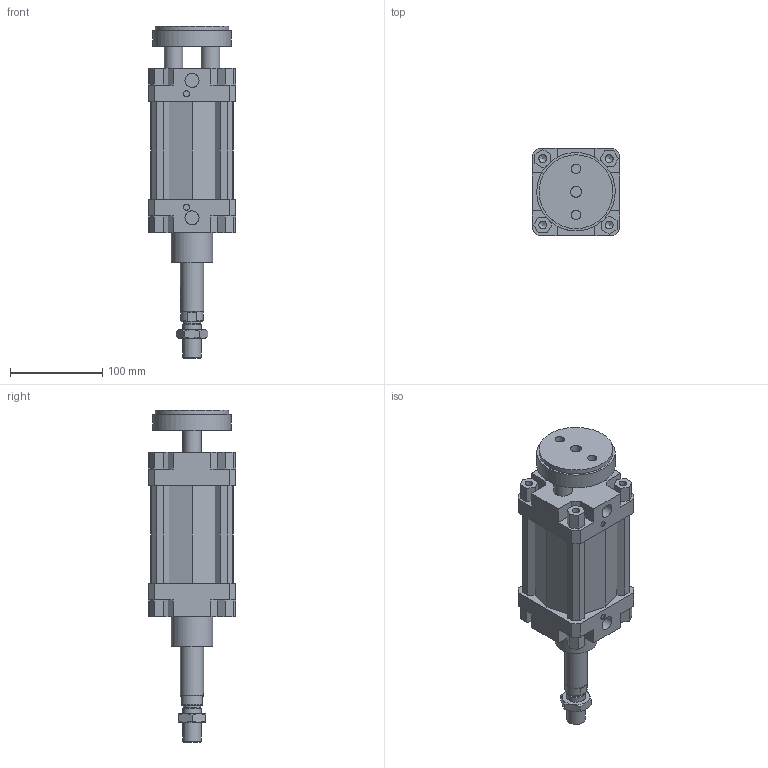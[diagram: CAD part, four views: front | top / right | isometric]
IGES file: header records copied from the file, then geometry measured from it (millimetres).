
Global section: file name: 132#_080_0050_02; native system: Autodesk Inventor 2014; preprocessor: unknown; author: A. Manieri; date: 20161006.162315; units: millimetre
Bounding box: 95 x 95 x 360 mm (x, y, z)
Volume: 1306596.1 mm3; surface area: 221021.4 mm2
Topology: 3 solids, 3 shells, 220 faces, 589 edges, 397 vertices
Faces by surface type: bspline 220
